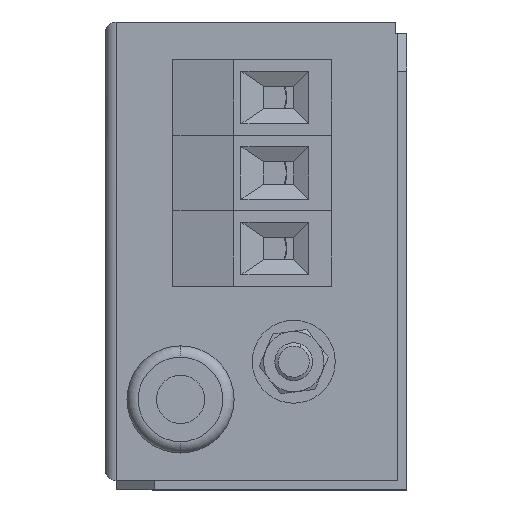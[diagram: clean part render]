
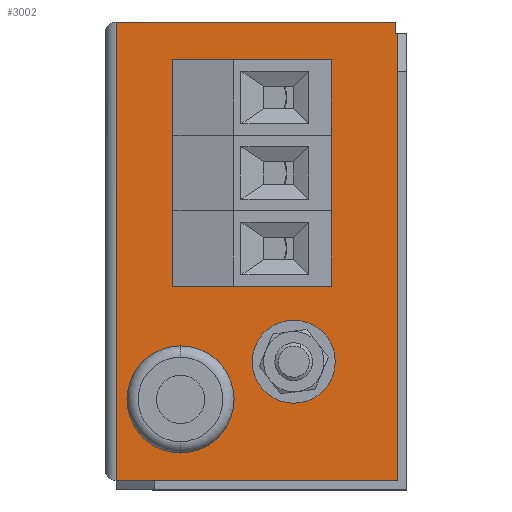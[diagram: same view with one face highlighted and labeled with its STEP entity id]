
A CAD part, left-side view. The second image highlights one B-rep face of the part: STEP entity #3002.
In plain terms, the highlighted planar face has unit normal (-1, 0, 0).
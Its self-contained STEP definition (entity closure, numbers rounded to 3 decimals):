
#66 = CARTESIAN_POINT ( 'NONE',  ( -138., 15., 17. ) ) ;
#146 = CIRCLE ( 'NONE', #8569, 4.1 ) ;
#265 = VERTEX_POINT ( 'NONE', #3782 ) ;
#283 = DIRECTION ( 'NONE',  ( 0., 0., 1. ) ) ;
#284 = EDGE_CURVE ( 'NONE', #7897, #2577, #11159, .T. ) ;
#306 = VERTEX_POINT ( 'NONE', #3862 ) ;
#424 = CARTESIAN_POINT ( 'NONE',  ( -138., 1.2, 1.2 ) ) ;
#460 = CARTESIAN_POINT ( 'NONE',  ( -138., 30., 18.25 ) ) ;
#532 = EDGE_LOOP ( 'NONE', ( #3339, #3061 ) ) ;
#733 = DIRECTION ( 'NONE',  ( 0., -1., 0. ) ) ;
#836 = VERTEX_POINT ( 'NONE', #7563 ) ;
#975 = CIRCLE ( 'NONE', #4896, 6.25 ) ;
#1221 = ORIENTED_EDGE ( 'NONE', *, *, #9303, .T. ) ;
#1230 = CARTESIAN_POINT ( 'NONE',  ( -138., 20., 42. ) ) ;
#1282 = DIRECTION ( 'NONE',  ( 0., 0., 1. ) ) ;
#1373 = DIRECTION ( 'NONE',  ( 0., 0., 1. ) ) ;
#1499 = EDGE_LOOP ( 'NONE', ( #5886, #1659 ) ) ;
#1500 = VECTOR ( 'NONE', #4834, 1000. ) ;
#1557 = FACE_BOUND ( 'NONE', #11390, .T. ) ;
#1659 = ORIENTED_EDGE ( 'NONE', *, *, #3084, .F. ) ;
#1697 = VECTOR ( 'NONE', #6667, 1000. ) ;
#1729 = LINE ( 'NONE', #4294, #9898 ) ;
#2032 = CIRCLE ( 'NONE', #6984, 4.1 ) ;
#2057 = ORIENTED_EDGE ( 'NONE', *, *, #5753, .F. ) ;
#2135 = CARTESIAN_POINT ( 'NONE',  ( -138., 38.5, 1.2 ) ) ;
#2208 = CIRCLE ( 'NONE', #5609, 4.1 ) ;
#2268 = FACE_BOUND ( 'NONE', #8522, .T. ) ;
#2364 = CARTESIAN_POINT ( 'NONE',  ( -138., 40., 62. ) ) ;
#2577 = VERTEX_POINT ( 'NONE', #4599 ) ;
#2960 = DIRECTION ( 'NONE',  ( 0., 0., 1. ) ) ;
#3002 = ADVANCED_FACE ( 'NONE', ( #4783, #4764, #1557, #2268, #11550, #9164 ), #9049, .F. ) ;
#3061 = ORIENTED_EDGE ( 'NONE', *, *, #8850, .F. ) ;
#3084 = EDGE_CURVE ( 'NONE', #9485, #9362, #5068, .T. ) ;
#3194 = EDGE_CURVE ( 'NONE', #9660, #5575, #8874, .T. ) ;
#3339 = ORIENTED_EDGE ( 'NONE', *, *, #4453, .F. ) ;
#3361 = DIRECTION ( 'NONE',  ( 0., 0., 1. ) ) ;
#3368 = ORIENTED_EDGE ( 'NONE', *, *, #7753, .F. ) ;
#3782 = CARTESIAN_POINT ( 'NONE',  ( -138., 1.2, 1.2 ) ) ;
#3862 = CARTESIAN_POINT ( 'NONE',  ( -138., 20., 46.1 ) ) ;
#3946 = CIRCLE ( 'NONE', #9746, 4.1 ) ;
#3982 = CARTESIAN_POINT ( 'NONE',  ( -138., 40., 1.2 ) ) ;
#4189 = DIRECTION ( 'NONE',  ( -1., 0., 0. ) ) ;
#4194 = LINE ( 'NONE', #424, #10380 ) ;
#4294 = CARTESIAN_POINT ( 'NONE',  ( -138., 1.5, 60.5 ) ) ;
#4349 = VERTEX_POINT ( 'NONE', #5063 ) ;
#4385 = EDGE_CURVE ( 'NONE', #6564, #9660, #6424, .T. ) ;
#4453 = EDGE_CURVE ( 'NONE', #8114, #4349, #2208, .T. ) ;
#4552 = DIRECTION ( 'NONE',  ( 1., 0., 0. ) ) ;
#4555 = CARTESIAN_POINT ( 'NONE',  ( -138., 20., 27.9 ) ) ;
#4599 = CARTESIAN_POINT ( 'NONE',  ( -138., 20., 36.1 ) ) ;
#4764 = FACE_BOUND ( 'NONE', #532, .T. ) ;
#4767 = CARTESIAN_POINT ( 'NONE',  ( -138., 30., 12. ) ) ;
#4783 = FACE_BOUND ( 'NONE', #4786, .T. ) ;
#4786 = EDGE_LOOP ( 'NONE', ( #6126, #8826 ) ) ;
#4834 = DIRECTION ( 'NONE',  ( 0., -1., 0. ) ) ;
#4871 = EDGE_CURVE ( 'NONE', #836, #265, #5141, .T. ) ;
#4896 = AXIS2_PLACEMENT_3D ( 'NONE', #11464, #4189, #10598 ) ;
#4978 = ORIENTED_EDGE ( 'NONE', *, *, #4871, .T. ) ;
#5063 = CARTESIAN_POINT ( 'NONE',  ( -138., 20., 47.9 ) ) ;
#5068 = CIRCLE ( 'NONE', #8228, 6.25 ) ;
#5072 = VERTEX_POINT ( 'NONE', #8659 ) ;
#5091 = DIRECTION ( 'NONE',  ( -1., 0., 0. ) ) ;
#5141 = LINE ( 'NONE', #3982, #1500 ) ;
#5207 = DIRECTION ( 'NONE',  ( 0., 0., 1. ) ) ;
#5317 = ORIENTED_EDGE ( 'NONE', *, *, #284, .F. ) ;
#5365 = EDGE_CURVE ( 'NONE', #9435, #5072, #6139, .T. ) ;
#5382 = ORIENTED_EDGE ( 'NONE', *, *, #6891, .F. ) ;
#5575 = VERTEX_POINT ( 'NONE', #8609 ) ;
#5597 = CARTESIAN_POINT ( 'NONE',  ( -138., 38.5, 62. ) ) ;
#5609 = AXIS2_PLACEMENT_3D ( 'NONE', #9644, #7881, #3361 ) ;
#5623 = DIRECTION ( 'NONE',  ( -1., 0., 0. ) ) ;
#5753 = EDGE_CURVE ( 'NONE', #2577, #7897, #2032, .T. ) ;
#5828 = ORIENTED_EDGE ( 'NONE', *, *, #4385, .F. ) ;
#5886 = ORIENTED_EDGE ( 'NONE', *, *, #11476, .F. ) ;
#5916 = VECTOR ( 'NONE', #7520, 1000. ) ;
#5991 = CARTESIAN_POINT ( 'NONE',  ( -138., 20., 42. ) ) ;
#5994 = CARTESIAN_POINT ( 'NONE',  ( -138., 30., 5.75 ) ) ;
#6126 = ORIENTED_EDGE ( 'NONE', *, *, #5365, .F. ) ;
#6139 = CIRCLE ( 'NONE', #8020, 2.5 ) ;
#6326 = DIRECTION ( 'NONE',  ( -1., 0., 0. ) ) ;
#6424 = LINE ( 'NONE', #2364, #11067 ) ;
#6564 = VERTEX_POINT ( 'NONE', #5597 ) ;
#6652 = DIRECTION ( 'NONE',  ( 0., 0., 1. ) ) ;
#6667 = DIRECTION ( 'NONE',  ( 0., 0., -1. ) ) ;
#6818 = DIRECTION ( 'NONE',  ( 0., -1., 0. ) ) ;
#6891 = EDGE_CURVE ( 'NONE', #5575, #8015, #1729, .T. ) ;
#6893 = DIRECTION ( 'NONE',  ( 0., 0., 1. ) ) ;
#6984 = AXIS2_PLACEMENT_3D ( 'NONE', #10481, #5091, #5207 ) ;
#7032 = AXIS2_PLACEMENT_3D ( 'NONE', #5991, #8738, #6893 ) ;
#7062 = LINE ( 'NONE', #2135, #1697 ) ;
#7396 = DIRECTION ( 'NONE',  ( -1., 0., 0. ) ) ;
#7520 = DIRECTION ( 'NONE',  ( 0., 0., -1. ) ) ;
#7563 = CARTESIAN_POINT ( 'NONE',  ( -138., 38.5, 1.2 ) ) ;
#7613 = CARTESIAN_POINT ( 'NONE',  ( -138., 15., 19.5 ) ) ;
#7637 = AXIS2_PLACEMENT_3D ( 'NONE', #10845, #4552, #9871 ) ;
#7685 = AXIS2_PLACEMENT_3D ( 'NONE', #9169, #8349, #2960 ) ;
#7753 = EDGE_CURVE ( 'NONE', #10512, #306, #9609, .T. ) ;
#7881 = DIRECTION ( 'NONE',  ( -1., 0., 0. ) ) ;
#7897 = VERTEX_POINT ( 'NONE', #4555 ) ;
#8015 = VERTEX_POINT ( 'NONE', #10081 ) ;
#8020 = AXIS2_PLACEMENT_3D ( 'NONE', #10921, #11037, #11152 ) ;
#8033 = AXIS2_PLACEMENT_3D ( 'NONE', #66, #6326, #9160 ) ;
#8114 = VERTEX_POINT ( 'NONE', #11191 ) ;
#8207 = ORIENTED_EDGE ( 'NONE', *, *, #10603, .T. ) ;
#8228 = AXIS2_PLACEMENT_3D ( 'NONE', #4767, #7396, #283 ) ;
#8349 = DIRECTION ( 'NONE',  ( -1., 0., 0. ) ) ;
#8522 = EDGE_LOOP ( 'NONE', ( #2057, #5317 ) ) ;
#8569 = AXIS2_PLACEMENT_3D ( 'NONE', #1230, #5623, #6652 ) ;
#8609 = CARTESIAN_POINT ( 'NONE',  ( -138., 1.5, 60.5 ) ) ;
#8659 = CARTESIAN_POINT ( 'NONE',  ( -138., 15., 14.5 ) ) ;
#8738 = DIRECTION ( 'NONE',  ( -1., 0., 0. ) ) ;
#8814 = ORIENTED_EDGE ( 'NONE', *, *, #3194, .F. ) ;
#8826 = ORIENTED_EDGE ( 'NONE', *, *, #9691, .F. ) ;
#8850 = EDGE_CURVE ( 'NONE', #4349, #8114, #3946, .T. ) ;
#8874 = LINE ( 'NONE', #9274, #5916 ) ;
#9049 = PLANE ( 'NONE',  #7637 ) ;
#9079 = EDGE_LOOP ( 'NONE', ( #5828, #1221, #4978, #8207, #5382, #8814 ) ) ;
#9160 = DIRECTION ( 'NONE',  ( 0., 0., 1. ) ) ;
#9164 = FACE_OUTER_BOUND ( 'NONE', #9079, .T. ) ;
#9169 = CARTESIAN_POINT ( 'NONE',  ( -138., 20., 32. ) ) ;
#9267 = CARTESIAN_POINT ( 'NONE',  ( -138., 20., 37.9 ) ) ;
#9274 = CARTESIAN_POINT ( 'NONE',  ( -138., 1.5, 62. ) ) ;
#9303 = EDGE_CURVE ( 'NONE', #6564, #836, #7062, .T. ) ;
#9362 = VERTEX_POINT ( 'NONE', #460 ) ;
#9422 = CARTESIAN_POINT ( 'NONE',  ( -138., 20., 52. ) ) ;
#9435 = VERTEX_POINT ( 'NONE', #7613 ) ;
#9485 = VERTEX_POINT ( 'NONE', #5994 ) ;
#9609 = CIRCLE ( 'NONE', #7032, 4.1 ) ;
#9644 = CARTESIAN_POINT ( 'NONE',  ( -138., 20., 52. ) ) ;
#9660 = VERTEX_POINT ( 'NONE', #9835 ) ;
#9691 = EDGE_CURVE ( 'NONE', #5072, #9435, #10682, .T. ) ;
#9746 = AXIS2_PLACEMENT_3D ( 'NONE', #9422, #10266, #1282 ) ;
#9835 = CARTESIAN_POINT ( 'NONE',  ( -138., 1.5, 62. ) ) ;
#9871 = DIRECTION ( 'NONE',  ( 0., 0., -1. ) ) ;
#9898 = VECTOR ( 'NONE', #733, 1000. ) ;
#10081 = CARTESIAN_POINT ( 'NONE',  ( -138., 1.2, 60.5 ) ) ;
#10266 = DIRECTION ( 'NONE',  ( -1., 0., 0. ) ) ;
#10380 = VECTOR ( 'NONE', #1373, 1000. ) ;
#10481 = CARTESIAN_POINT ( 'NONE',  ( -138., 20., 32. ) ) ;
#10512 = VERTEX_POINT ( 'NONE', #9267 ) ;
#10598 = DIRECTION ( 'NONE',  ( 0., 0., 1. ) ) ;
#10603 = EDGE_CURVE ( 'NONE', #265, #8015, #4194, .T. ) ;
#10661 = EDGE_CURVE ( 'NONE', #306, #10512, #146, .T. ) ;
#10682 = CIRCLE ( 'NONE', #8033, 2.5 ) ;
#10845 = CARTESIAN_POINT ( 'NONE',  ( -138., 40., 1.2 ) ) ;
#10921 = CARTESIAN_POINT ( 'NONE',  ( -138., 15., 17. ) ) ;
#11037 = DIRECTION ( 'NONE',  ( -1., 0., 0. ) ) ;
#11067 = VECTOR ( 'NONE', #6818, 1000. ) ;
#11152 = DIRECTION ( 'NONE',  ( 0., 0., 1. ) ) ;
#11159 = CIRCLE ( 'NONE', #7685, 4.1 ) ;
#11191 = CARTESIAN_POINT ( 'NONE',  ( -138., 20., 56.1 ) ) ;
#11390 = EDGE_LOOP ( 'NONE', ( #11454, #3368 ) ) ;
#11454 = ORIENTED_EDGE ( 'NONE', *, *, #10661, .F. ) ;
#11464 = CARTESIAN_POINT ( 'NONE',  ( -138., 30., 12. ) ) ;
#11476 = EDGE_CURVE ( 'NONE', #9362, #9485, #975, .T. ) ;
#11550 = FACE_BOUND ( 'NONE', #1499, .T. ) ;
